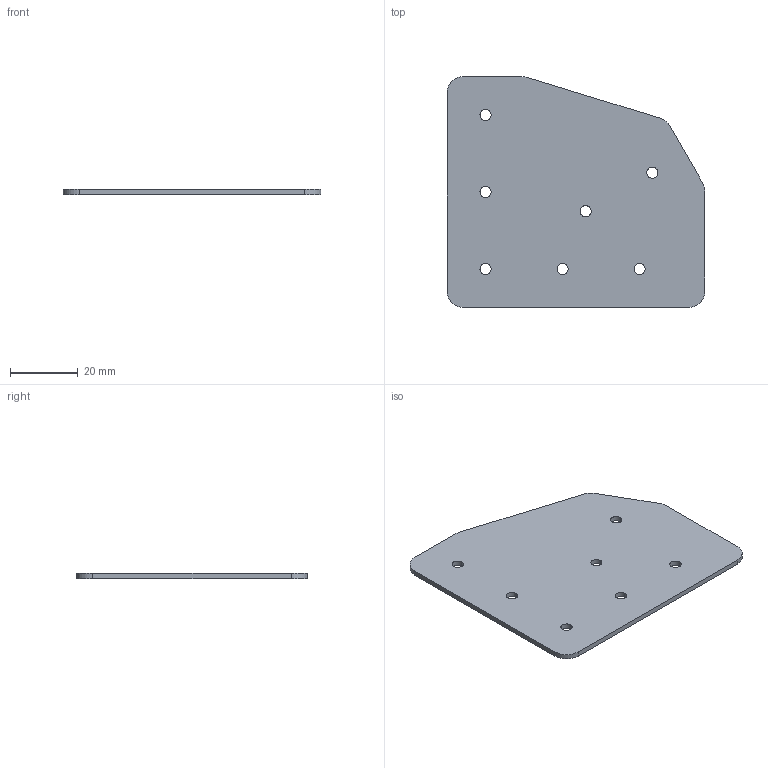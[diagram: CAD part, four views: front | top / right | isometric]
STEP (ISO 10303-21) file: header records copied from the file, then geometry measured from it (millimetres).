
FILE_DESCRIPTION (( 'STEP AP203' ), '1' );
FILE_NAME ('FDPGK-S_.75-2C9060.step', '2019-09-11T19:44:49', ( 'ydmin' ), ( '' ), 'SwSTEP 2.0', 'SolidWorks 2017', '' );
FILE_SCHEMA (( 'CONFIG_CONTROL_DESIGN' ));
Length unit declared in the file: inch
Products named in the file (1): FDPGK-S_.75-2C9060
Bounding box: 76.11 x 68.2 x 1.52 mm (x, y, z)
Volume: 6989 mm3; surface area: 9683.2 mm2
Topology: 1 solids, 1 shells, 28 faces, 78 edges, 52 vertices
Faces by surface type: cylinder 20, plane 8
Entity records: 1029 total; most frequent: DIRECTION 176, CARTESIAN_POINT 159, ORIENTED_EDGE 156, EDGE_CURVE 78, AXIS2_PLACEMENT_3D 69, VERTEX_POINT 52, EDGE_LOOP 42, CIRCLE 40
